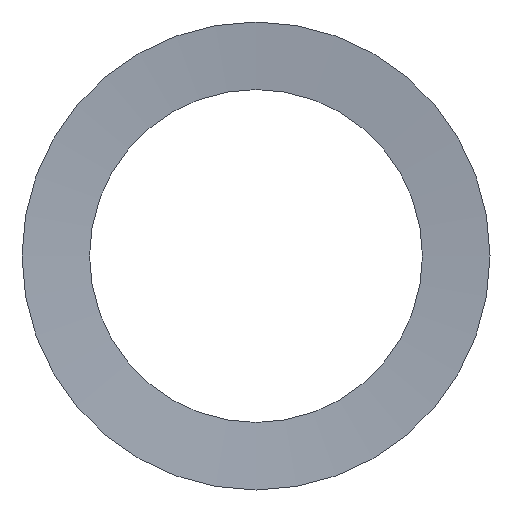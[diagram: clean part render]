
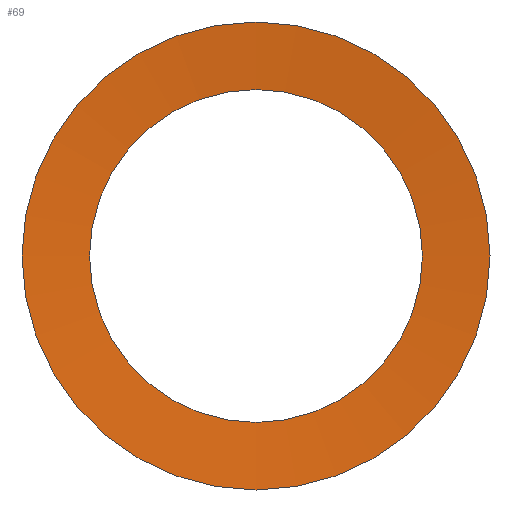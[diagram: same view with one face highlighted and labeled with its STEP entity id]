
A CAD part, front view. The second image highlights one B-rep face of the part: STEP entity #69.
In plain terms, the highlighted conical face has half-angle 85.491 degrees and reference radius 63.75 mm.
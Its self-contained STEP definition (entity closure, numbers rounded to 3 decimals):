
#19=FACE_OUTER_BOUND('',#23,.T.);
#23=EDGE_LOOP('',(#57,#58,#59,#60));
#27=LINE('',#137,#31);
#31=VECTOR('',#118,63.75);
#35=CIRCLE('',#98,53.);
#36=CIRCLE('',#100,74.5);
#39=VERTEX_POINT('',#132);
#40=VERTEX_POINT('',#136);
#45=EDGE_CURVE('',#39,#39,#35,.T.);
#46=EDGE_CURVE('',#39,#40,#27,.T.);
#47=EDGE_CURVE('',#40,#40,#36,.T.);
#57=ORIENTED_EDGE('',*,*,#45,.T.);
#58=ORIENTED_EDGE('',*,*,#46,.T.);
#59=ORIENTED_EDGE('',*,*,#47,.F.);
#60=ORIENTED_EDGE('',*,*,#46,.F.);
#66=CONICAL_SURFACE('',#99,63.75,1.492);
#69=ADVANCED_FACE('',(#19),#66,.F.);
#98=AXIS2_PLACEMENT_3D('',#134,#114,#115);
#99=AXIS2_PLACEMENT_3D('',#135,#116,#117);
#100=AXIS2_PLACEMENT_3D('',#138,#119,#120);
#114=DIRECTION('center_axis',(0.,1.,0.));
#115=DIRECTION('ref_axis',(1.,0.,0.));
#116=DIRECTION('center_axis',(0.,-1.,0.));
#117=DIRECTION('ref_axis',(0.,0.,-1.));
#118=DIRECTION('',(0.,-0.079,0.997));
#119=DIRECTION('center_axis',(0.,1.,0.));
#120=DIRECTION('ref_axis',(1.,0.,0.));
#132=CARTESIAN_POINT('',(0.,1.695,53.));
#134=CARTESIAN_POINT('Origin',(0.,1.695,0.));
#135=CARTESIAN_POINT('Origin',(0.,0.848,0.));
#136=CARTESIAN_POINT('',(0.,0.,74.5));
#137=CARTESIAN_POINT('',(0.,0.848,63.75));
#138=CARTESIAN_POINT('Origin',(0.,0.,0.));
